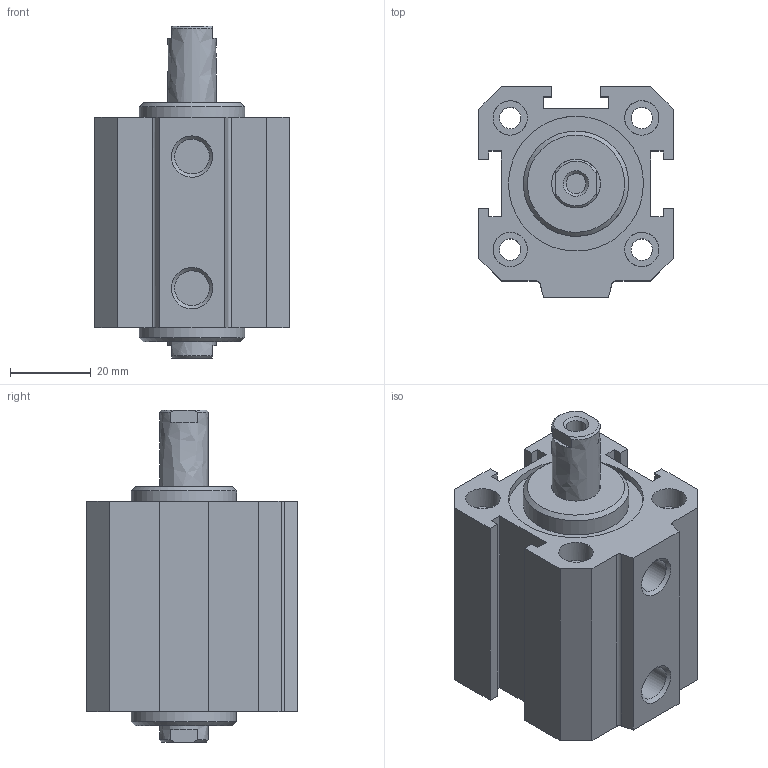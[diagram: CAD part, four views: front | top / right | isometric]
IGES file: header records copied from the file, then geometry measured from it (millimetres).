
Global section: file name: 1514_32_0015; native system: Autodesk Inventor 2014; preprocessor: unknown; author: A. Manieri; date: 20160824.113517; units: millimetre
Bounding box: 48 x 52 x 82 mm (x, y, z)
Volume: 94951.4 mm3; surface area: 33191.1 mm2
Topology: 2 solids, 2 shells, 106 faces, 276 edges, 194 vertices
Faces by surface type: bspline 106
